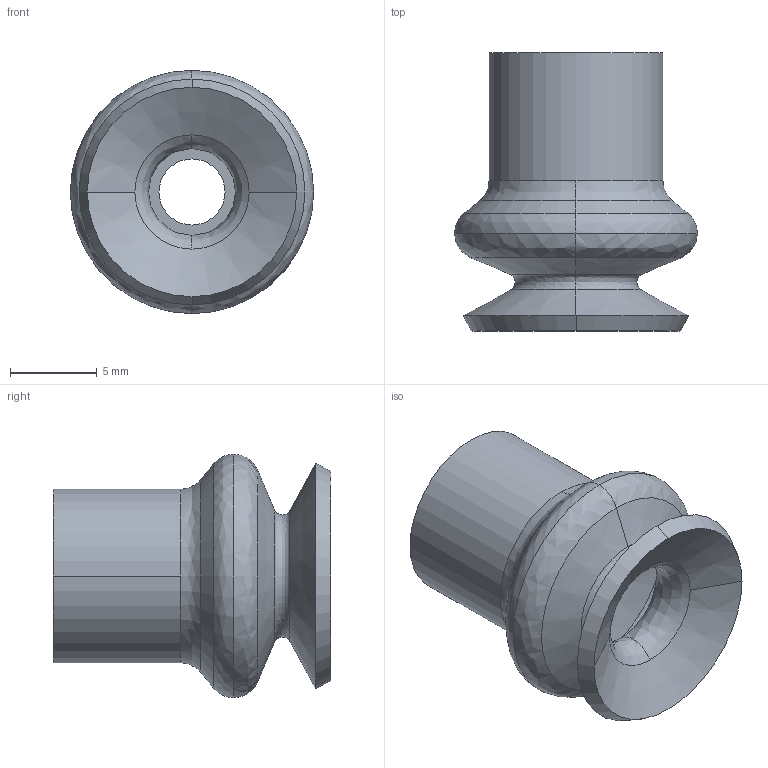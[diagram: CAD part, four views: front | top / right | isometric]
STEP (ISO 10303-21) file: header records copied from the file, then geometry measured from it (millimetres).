
FILE_DESCRIPTION (( 'STEP AP214' ), '1' );
FILE_NAME ('VS2-SA14.STEP', '2019-11-13T08:04:30', ( '微软用户' ), ( '微软中国' ), 'SwSTEP 2.0', 'SolidWorks 2016', '' );
FILE_SCHEMA (( 'AUTOMOTIVE_DESIGN' ));
Length unit declared in the file: millimetre
Products named in the file (1): VS2-SA14
Bounding box: 14 x 16 x 14 mm (x, y, z)
Volume: 978 mm3; surface area: 1224.1 mm2
Topology: 1 solids, 1 shells, 34 faces, 74 edges, 42 vertices
Faces by surface type: cone 14, bspline 14, cylinder 4, plane 2
Entity records: 1116 total; most frequent: CARTESIAN_POINT 403, ORIENTED_EDGE 148, DIRECTION 144, EDGE_CURVE 74, AXIS2_PLACEMENT_3D 63, CIRCLE 42, VERTEX_POINT 42, EDGE_LOOP 36
